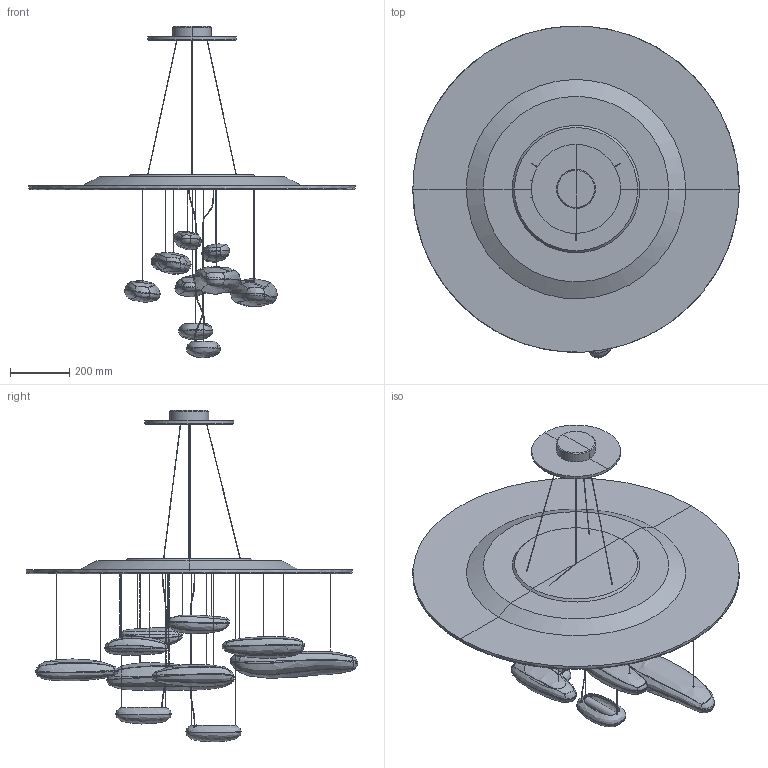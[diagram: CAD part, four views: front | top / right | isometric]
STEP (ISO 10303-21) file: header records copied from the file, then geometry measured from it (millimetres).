
FILE_DESCRIPTION(/* description */ (''),/* implementation_level */ '2;1');
FILE_NAME(/* name */ 'MERCUR~1',/* time_stamp */ '2026-07-02T17:02:36+02:00',/* author */ (''),/* organization */ (''),/* preprocessor_version */ 'ST-DEVELOPER v16.5',/* originating_system */ '',/* authorisation */ '');
FILE_SCHEMA (('AUTOMOTIVE_DESIGN'));
Length unit declared in the file: centimetre
Products named in the file (1): Document
Bounding box: 1099.92 x 1118.49 x 1118.07 mm (x, y, z)
Volume: 24975995.1 mm3; surface area: 2915580.4 mm2
Topology: 3 solids, 55 shells, 251 faces, 836 edges, 573 vertices
Faces by surface type: bspline 243, plane 8
Entity records: 38642 total; most frequent: CARTESIAN_POINT 33762, ORIENTED_EDGE 1287, EDGE_CURVE 811, B_SPLINE_CURVE_WITH_KNOTS 592, VERTEX_POINT 573, EDGE_LOOP 270, ADVANCED_FACE 251, FACE_OUTER_BOUND 251
